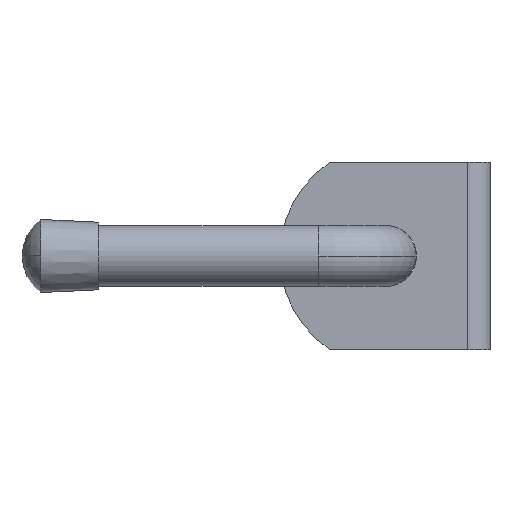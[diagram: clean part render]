
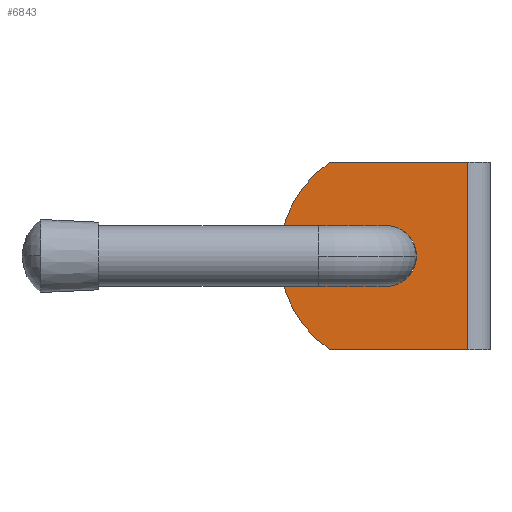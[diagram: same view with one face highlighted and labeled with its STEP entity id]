
A CAD part, left-side view. The second image highlights one B-rep face of the part: STEP entity #6843.
In plain terms, the highlighted planar face has unit normal (-1, 0, 0).
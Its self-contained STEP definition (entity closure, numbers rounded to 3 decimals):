
#380 = DIRECTION ( 'NONE',  ( 0., 1., 0. ) ) ;
#835 = VERTEX_POINT ( 'NONE', #1654 ) ;
#873 = FACE_OUTER_BOUND ( 'NONE', #1836, .T. ) ;
#968 = ORIENTED_EDGE ( 'NONE', *, *, #9822, .F. ) ;
#1069 = CIRCLE ( 'NONE', #6454, 30. ) ;
#1337 = CARTESIAN_POINT ( 'NONE',  ( -65.75, 1.5, -25. ) ) ;
#1654 = CARTESIAN_POINT ( 'NONE',  ( -65.75, 1.5, -25. ) ) ;
#1720 = CARTESIAN_POINT ( 'NONE',  ( -65.75, 21.5, 0. ) ) ;
#1776 = AXIS2_PLACEMENT_3D ( 'NONE', #3629, #5129, #380 ) ;
#1836 = EDGE_LOOP ( 'NONE', ( #6334, #5101, #8416, #6109, #968 ) ) ;
#1873 = FACE_BOUND ( 'NONE', #6457, .T. ) ;
#2014 = CARTESIAN_POINT ( 'NONE',  ( -65.75, 0., 0. ) ) ;
#2571 = DIRECTION ( 'NONE',  ( 0., -1., 0. ) ) ;
#2790 = CARTESIAN_POINT ( 'NONE',  ( -65.75, 0., -25. ) ) ;
#2888 = DIRECTION ( 'NONE',  ( 0., 0., -1. ) ) ;
#3150 = EDGE_CURVE ( 'NONE', #7355, #6309, #4567, .T. ) ;
#3200 = EDGE_CURVE ( 'NONE', #3839, #3978, #5930, .T. ) ;
#3257 = LINE ( 'NONE', #1337, #5730 ) ;
#3339 = CARTESIAN_POINT ( 'NONE',  ( -65.75, 23.2, 0. ) ) ;
#3376 = VECTOR ( 'NONE', #3593, 1000. ) ;
#3428 = CARTESIAN_POINT ( 'NONE',  ( -65.75, 1.5, 25. ) ) ;
#3515 = VECTOR ( 'NONE', #3633, 1000. ) ;
#3588 = VERTEX_POINT ( 'NONE', #3728 ) ;
#3593 = DIRECTION ( 'NONE',  ( 0., -1., 0. ) ) ;
#3629 = CARTESIAN_POINT ( 'NONE',  ( -65.75, 23.2, 0. ) ) ;
#3631 = DIRECTION ( 'NONE',  ( 1., 0., 0. ) ) ;
#3633 = DIRECTION ( 'NONE',  ( 0., 1., 0. ) ) ;
#3728 = CARTESIAN_POINT ( 'NONE',  ( -65.75, 38.083, 25. ) ) ;
#3839 = VERTEX_POINT ( 'NONE', #9232 ) ;
#3978 = VERTEX_POINT ( 'NONE', #7819 ) ;
#3994 = CIRCLE ( 'NONE', #4737, 8.1 ) ;
#4387 = LINE ( 'NONE', #2790, #3376 ) ;
#4428 = DIRECTION ( 'NONE',  ( 0., 1., 0. ) ) ;
#4567 = CIRCLE ( 'NONE', #7849, 30. ) ;
#4587 = ORIENTED_EDGE ( 'NONE', *, *, #7863, .T. ) ;
#4737 = AXIS2_PLACEMENT_3D ( 'NONE', #3339, #7338, #6478 ) ;
#4842 = CARTESIAN_POINT ( 'NONE',  ( -65.75, 21.5, 0. ) ) ;
#5017 = EDGE_CURVE ( 'NONE', #3588, #7355, #1069, .T. ) ;
#5101 = ORIENTED_EDGE ( 'NONE', *, *, #5017, .T. ) ;
#5129 = DIRECTION ( 'NONE',  ( 1., 0., 0. ) ) ;
#5730 = VECTOR ( 'NONE', #2888, 1000. ) ;
#5930 = CIRCLE ( 'NONE', #1776, 8.1 ) ;
#5974 = LINE ( 'NONE', #10117, #3515 ) ;
#5990 = PLANE ( 'NONE',  #7918 ) ;
#6109 = ORIENTED_EDGE ( 'NONE', *, *, #6471, .T. ) ;
#6309 = VERTEX_POINT ( 'NONE', #8920 ) ;
#6334 = ORIENTED_EDGE ( 'NONE', *, *, #9780, .T. ) ;
#6454 = AXIS2_PLACEMENT_3D ( 'NONE', #1720, #7297, #6538 ) ;
#6457 = EDGE_LOOP ( 'NONE', ( #4587, #7571 ) ) ;
#6471 = EDGE_CURVE ( 'NONE', #6309, #835, #4387, .T. ) ;
#6478 = DIRECTION ( 'NONE',  ( 0., 1., 0. ) ) ;
#6537 = DIRECTION ( 'NONE',  ( -1., 0., 0. ) ) ;
#6538 = DIRECTION ( 'NONE',  ( 0., -1., 0. ) ) ;
#6843 = ADVANCED_FACE ( 'NONE', ( #1873, #873 ), #5990, .F. ) ;
#7297 = DIRECTION ( 'NONE',  ( -1., 0., 0. ) ) ;
#7338 = DIRECTION ( 'NONE',  ( 1., 0., 0. ) ) ;
#7355 = VERTEX_POINT ( 'NONE', #9370 ) ;
#7571 = ORIENTED_EDGE ( 'NONE', *, *, #3200, .T. ) ;
#7819 = CARTESIAN_POINT ( 'NONE',  ( -65.75, 31.3, 0. ) ) ;
#7849 = AXIS2_PLACEMENT_3D ( 'NONE', #4842, #6537, #2571 ) ;
#7863 = EDGE_CURVE ( 'NONE', #3978, #3839, #3994, .T. ) ;
#7918 = AXIS2_PLACEMENT_3D ( 'NONE', #2014, #3631, #4428 ) ;
#8416 = ORIENTED_EDGE ( 'NONE', *, *, #3150, .T. ) ;
#8920 = CARTESIAN_POINT ( 'NONE',  ( -65.75, 38.083, -25. ) ) ;
#8956 = VERTEX_POINT ( 'NONE', #3428 ) ;
#9232 = CARTESIAN_POINT ( 'NONE',  ( -65.75, 15.1, 0. ) ) ;
#9370 = CARTESIAN_POINT ( 'NONE',  ( -65.75, 51.5, 0. ) ) ;
#9780 = EDGE_CURVE ( 'NONE', #8956, #3588, #5974, .T. ) ;
#9822 = EDGE_CURVE ( 'NONE', #8956, #835, #3257, .T. ) ;
#10117 = CARTESIAN_POINT ( 'NONE',  ( -65.75, 0., 25. ) ) ;
